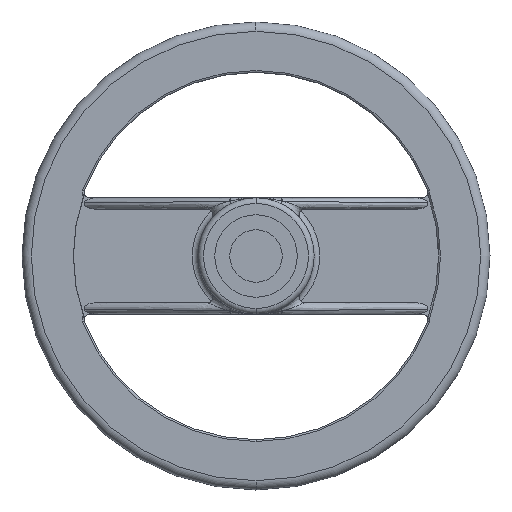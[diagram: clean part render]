
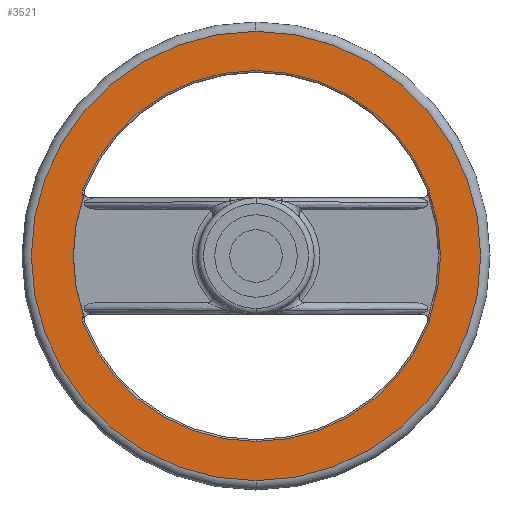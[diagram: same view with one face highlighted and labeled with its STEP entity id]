
A CAD part, left-side view. The second image highlights one B-rep face of the part: STEP entity #3521.
In plain terms, the highlighted planar face has unit normal (-1, 0, 0).
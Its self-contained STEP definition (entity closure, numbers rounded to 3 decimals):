
#75 = AXIS2_PLACEMENT_3D ( 'NONE', #924, #2589, #5181 ) ;
#103 = CARTESIAN_POINT ( 'NONE',  ( 22., 46.147, -16.082 ) ) ;
#112 = CARTESIAN_POINT ( 'NONE',  ( 22., 46.391, 16.928 ) ) ;
#206 = B_SPLINE_CURVE_WITH_KNOTS ( 'NONE', 3,
 ( #2721, #976, #3511, #916, #4423, #4762, #2233, #948, #103, #4367 ),
 .UNSPECIFIED., .F., .F.,
 ( 4, 2, 2, 2, 4 ),
 ( 0., 0., 0.001, 0.001, 0.002 ),
 .UNSPECIFIED. ) ;
#285 = DIRECTION ( 'NONE',  ( -1., 0., 0. ) ) ;
#290 = B_SPLINE_CURVE_WITH_KNOTS ( 'NONE', 3,
 ( #905, #1350, #3127, #4772, #1753, #112, #4861, #3071, #1798, #4443 ),
 .UNSPECIFIED., .F., .F.,
 ( 4, 2, 2, 2, 4 ),
 ( 0., 0., 0.001, 0.001, 0.002 ),
 .UNSPECIFIED. ) ;
#333 = AXIS2_PLACEMENT_3D ( 'NONE', #1525, #285, #4491 ) ;
#406 = EDGE_CURVE ( 'NONE', #3774, #4274, #4323, .T. ) ;
#460 = CARTESIAN_POINT ( 'NONE',  ( 22., 0., 59.967 ) ) ;
#493 = AXIS2_PLACEMENT_3D ( 'NONE', #3462, #1365, #918 ) ;
#620 = ORIENTED_EDGE ( 'NONE', *, *, #1118, .T. ) ;
#643 = CARTESIAN_POINT ( 'NONE',  ( 22., 0., 0. ) ) ;
#654 = VERTEX_POINT ( 'NONE', #5421 ) ;
#718 = CARTESIAN_POINT ( 'NONE',  ( 22., -46.266, -17.654 ) ) ;
#749 = DIRECTION ( 'NONE',  ( 1., 0., 0. ) ) ;
#775 = AXIS2_PLACEMENT_3D ( 'NONE', #2411, #5371, #5026 ) ;
#829 = CARTESIAN_POINT ( 'NONE',  ( 22., -46.352, -16.645 ) ) ;
#905 = CARTESIAN_POINT ( 'NONE',  ( 22., 46.064, 15.959 ) ) ;
#916 = CARTESIAN_POINT ( 'NONE',  ( 22., 46.391, -17.079 ) ) ;
#918 = DIRECTION ( 'NONE',  ( 0., 0., -1. ) ) ;
#924 = CARTESIAN_POINT ( 'NONE',  ( 22., 48.75, 0. ) ) ;
#948 = CARTESIAN_POINT ( 'NONE',  ( 22., 46.215, -16.213 ) ) ;
#976 = CARTESIAN_POINT ( 'NONE',  ( 22., 46.319, -17.514 ) ) ;
#1031 = AXIS2_PLACEMENT_3D ( 'NONE', #2896, #749, #4585 ) ;
#1078 = EDGE_CURVE ( 'NONE', #3805, #4321, #5482, .T. ) ;
#1099 = DIRECTION ( 'NONE',  ( 0., 0., -1. ) ) ;
#1111 = ORIENTED_EDGE ( 'NONE', *, *, #2689, .T. ) ;
#1118 = EDGE_CURVE ( 'NONE', #2091, #4929, #2459, .T. ) ;
#1136 = ORIENTED_EDGE ( 'NONE', *, *, #1791, .T. ) ;
#1163 = ORIENTED_EDGE ( 'NONE', *, *, #3277, .T. ) ;
#1183 = VERTEX_POINT ( 'NONE', #4174 ) ;
#1241 = EDGE_CURVE ( 'NONE', #1796, #654, #3178, .T. ) ;
#1348 = EDGE_CURVE ( 'NONE', #1183, #4321, #206, .T. ) ;
#1350 = CARTESIAN_POINT ( 'NONE',  ( 22., 46.147, 16.082 ) ) ;
#1365 = DIRECTION ( 'NONE',  ( -1., 0., 0. ) ) ;
#1525 = CARTESIAN_POINT ( 'NONE',  ( 22., 0., 0. ) ) ;
#1605 = CARTESIAN_POINT ( 'NONE',  ( 22., -46.266, 17.654 ) ) ;
#1615 = CARTESIAN_POINT ( 'NONE',  ( 22., -46.266, -17.654 ) ) ;
#1729 = B_SPLINE_CURVE_WITH_KNOTS ( 'NONE', 3,
 ( #4653, #4675, #4252, #2123, #3849, #1615 ),
 .UNSPECIFIED., .F., .F.,
 ( 4, 2, 4 ),
 ( 0.001, 0.001, 0.002 ),
 .UNSPECIFIED. ) ;
#1753 = CARTESIAN_POINT ( 'NONE',  ( 22., 46.356, 16.636 ) ) ;
#1763 = CARTESIAN_POINT ( 'NONE',  ( 22., -46.352, 16.645 ) ) ;
#1783 = CARTESIAN_POINT ( 'NONE',  ( 22., -46.365, 17.327 ) ) ;
#1791 = EDGE_CURVE ( 'NONE', #4274, #1796, #1729, .T. ) ;
#1796 = VERTEX_POINT ( 'NONE', #718 ) ;
#1798 = CARTESIAN_POINT ( 'NONE',  ( 22., 46.319, 17.514 ) ) ;
#1850 = CARTESIAN_POINT ( 'NONE',  ( 22., 46.064, -15.959 ) ) ;
#1875 = VERTEX_POINT ( 'NONE', #1605 ) ;
#1896 = CARTESIAN_POINT ( 'NONE',  ( 22., -46.352, 16.645 ) ) ;
#1902 = EDGE_LOOP ( 'NONE', ( #4547, #620 ) ) ;
#1934 = DIRECTION ( 'NONE',  ( -1., 0., 0. ) ) ;
#2068 = VERTEX_POINT ( 'NONE', #2990 ) ;
#2091 = VERTEX_POINT ( 'NONE', #460 ) ;
#2123 = CARTESIAN_POINT ( 'NONE',  ( 22., -46.365, -17.327 ) ) ;
#2233 = CARTESIAN_POINT ( 'NONE',  ( 22., 46.32, -16.491 ) ) ;
#2380 = EDGE_CURVE ( 'NONE', #2068, #1875, #5071, .T. ) ;
#2411 = CARTESIAN_POINT ( 'NONE',  ( 22., 0., 0. ) ) ;
#2436 = EDGE_LOOP ( 'NONE', ( #4205, #1111, #4217, #2642, #1163, #5084, #4679, #3867, #1136 ) ) ;
#2459 = CIRCLE ( 'NONE', #493, 59.967 ) ;
#2460 = CARTESIAN_POINT ( 'NONE',  ( 22., 0., -59.967 ) ) ;
#2589 = DIRECTION ( 'NONE',  ( 1., 0., 0. ) ) ;
#2642 = ORIENTED_EDGE ( 'NONE', *, *, #1078, .F. ) ;
#2672 = PLANE ( 'NONE',  #75 ) ;
#2689 = EDGE_CURVE ( 'NONE', #654, #1183, #3460, .T. ) ;
#2721 = CARTESIAN_POINT ( 'NONE',  ( 22., 46.266, -17.654 ) ) ;
#2731 = DIRECTION ( 'NONE',  ( 1., 0., 0. ) ) ;
#2831 = CIRCLE ( 'NONE', #333, 59.967 ) ;
#2850 = B_SPLINE_CURVE_WITH_KNOTS ( 'NONE', 3,
 ( #3485, #3109, #1783, #5219, #3979, #1763 ),
 .UNSPECIFIED., .F., .F.,
 ( 4, 2, 4 ),
 ( 0., 0.001, 0.001 ),
 .UNSPECIFIED. ) ;
#2896 = CARTESIAN_POINT ( 'NONE',  ( 22., 0., 0. ) ) ;
#2990 = CARTESIAN_POINT ( 'NONE',  ( 22., 46.266, 17.654 ) ) ;
#3071 = CARTESIAN_POINT ( 'NONE',  ( 22., 46.354, 17.371 ) ) ;
#3109 = CARTESIAN_POINT ( 'NONE',  ( 22., -46.327, 17.492 ) ) ;
#3127 = CARTESIAN_POINT ( 'NONE',  ( 22., 46.215, 16.213 ) ) ;
#3178 = CIRCLE ( 'NONE', #4872, 49.519 ) ;
#3277 = EDGE_CURVE ( 'NONE', #3805, #2068, #290, .T. ) ;
#3460 = CIRCLE ( 'NONE', #1031, 49.519 ) ;
#3462 = CARTESIAN_POINT ( 'NONE',  ( 22., 0., 0. ) ) ;
#3468 = FACE_BOUND ( 'NONE', #2436, .T. ) ;
#3485 = CARTESIAN_POINT ( 'NONE',  ( 22., -46.266, 17.654 ) ) ;
#3494 = FACE_OUTER_BOUND ( 'NONE', #1902, .T. ) ;
#3511 = CARTESIAN_POINT ( 'NONE',  ( 22., 46.354, -17.371 ) ) ;
#3521 = ADVANCED_FACE ( 'NONE', ( #3494, #3468 ), #2672, .F. ) ;
#3569 = CARTESIAN_POINT ( 'NONE',  ( 22., 46.064, 15.959 ) ) ;
#3774 = VERTEX_POINT ( 'NONE', #1896 ) ;
#3805 = VERTEX_POINT ( 'NONE', #3569 ) ;
#3849 = CARTESIAN_POINT ( 'NONE',  ( 22., -46.327, -17.492 ) ) ;
#3861 = DIRECTION ( 'NONE',  ( 0., 0., -1. ) ) ;
#3867 = ORIENTED_EDGE ( 'NONE', *, *, #406, .T. ) ;
#3979 = CARTESIAN_POINT ( 'NONE',  ( 22., -46.385, 16.813 ) ) ;
#4174 = CARTESIAN_POINT ( 'NONE',  ( 22., 46.266, -17.654 ) ) ;
#4205 = ORIENTED_EDGE ( 'NONE', *, *, #1241, .T. ) ;
#4209 = EDGE_CURVE ( 'NONE', #4929, #2091, #2831, .T. ) ;
#4217 = ORIENTED_EDGE ( 'NONE', *, *, #1348, .T. ) ;
#4252 = CARTESIAN_POINT ( 'NONE',  ( 22., -46.395, -16.985 ) ) ;
#4274 = VERTEX_POINT ( 'NONE', #829 ) ;
#4321 = VERTEX_POINT ( 'NONE', #1850 ) ;
#4323 = CIRCLE ( 'NONE', #4767, 49.25 ) ;
#4367 = CARTESIAN_POINT ( 'NONE',  ( 22., 46.064, -15.959 ) ) ;
#4374 = CARTESIAN_POINT ( 'NONE',  ( 22., 0., 0. ) ) ;
#4411 = DIRECTION ( 'NONE',  ( 1., 0., 0. ) ) ;
#4423 = CARTESIAN_POINT ( 'NONE',  ( 22., 46.391, -16.928 ) ) ;
#4443 = CARTESIAN_POINT ( 'NONE',  ( 22., 46.266, 17.654 ) ) ;
#4491 = DIRECTION ( 'NONE',  ( 0., 0., -1. ) ) ;
#4547 = ORIENTED_EDGE ( 'NONE', *, *, #4209, .T. ) ;
#4585 = DIRECTION ( 'NONE',  ( 0., 0., -1. ) ) ;
#4653 = CARTESIAN_POINT ( 'NONE',  ( 22., -46.352, -16.645 ) ) ;
#4675 = CARTESIAN_POINT ( 'NONE',  ( 22., -46.385, -16.813 ) ) ;
#4679 = ORIENTED_EDGE ( 'NONE', *, *, #4771, .T. ) ;
#4762 = CARTESIAN_POINT ( 'NONE',  ( 22., 46.356, -16.636 ) ) ;
#4767 = AXIS2_PLACEMENT_3D ( 'NONE', #4374, #2731, #1099 ) ;
#4771 = EDGE_CURVE ( 'NONE', #1875, #3774, #2850, .T. ) ;
#4772 = CARTESIAN_POINT ( 'NONE',  ( 22., 46.32, 16.491 ) ) ;
#4837 = CARTESIAN_POINT ( 'NONE',  ( 22., 0., 0. ) ) ;
#4861 = CARTESIAN_POINT ( 'NONE',  ( 22., 46.391, 17.079 ) ) ;
#4872 = AXIS2_PLACEMENT_3D ( 'NONE', #4837, #4411, #3861 ) ;
#4929 = VERTEX_POINT ( 'NONE', #2460 ) ;
#4933 = DIRECTION ( 'NONE',  ( 0., 0., 1. ) ) ;
#5026 = DIRECTION ( 'NONE',  ( 0., 0., -1. ) ) ;
#5056 = AXIS2_PLACEMENT_3D ( 'NONE', #643, #1934, #4933 ) ;
#5071 = CIRCLE ( 'NONE', #775, 49.519 ) ;
#5084 = ORIENTED_EDGE ( 'NONE', *, *, #2380, .T. ) ;
#5181 = DIRECTION ( 'NONE',  ( 0., 0., -1. ) ) ;
#5219 = CARTESIAN_POINT ( 'NONE',  ( 22., -46.395, 16.985 ) ) ;
#5371 = DIRECTION ( 'NONE',  ( 1., 0., 0. ) ) ;
#5421 = CARTESIAN_POINT ( 'NONE',  ( 22., 0., -49.519 ) ) ;
#5482 = CIRCLE ( 'NONE', #5056, 48.75 ) ;
